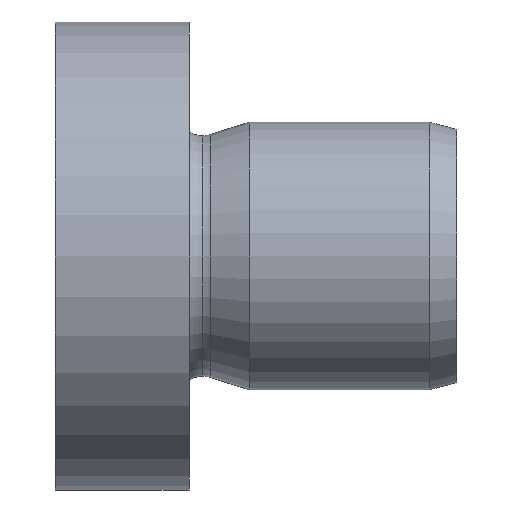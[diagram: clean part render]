
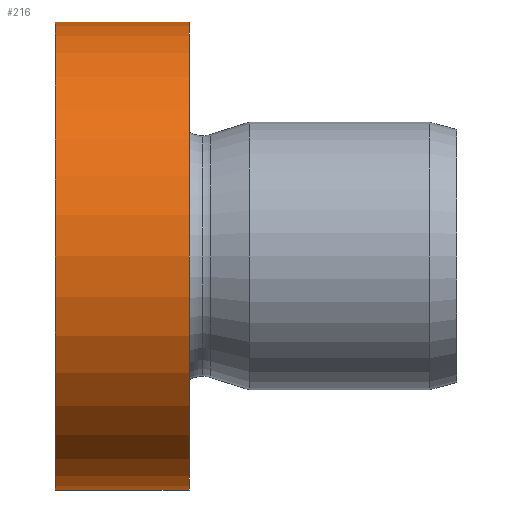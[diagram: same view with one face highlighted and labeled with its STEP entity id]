
A CAD part, left-side view. The second image highlights one B-rep face of the part: STEP entity #216.
In plain terms, the highlighted cylindrical face has radius 3.5 mm (diameter 7 mm), a partial arc.
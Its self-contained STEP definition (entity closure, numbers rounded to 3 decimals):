
#8 = VERTEX_POINT ( 'NONE', #115 ) ;
#13 = CIRCLE ( 'NONE', #390, 3.5 ) ;
#51 = DIRECTION ( 'NONE',  ( 0., -1., 0. ) ) ;
#92 = CARTESIAN_POINT ( 'NONE',  ( 0., 0., -3.5 ) ) ;
#97 = DIRECTION ( 'NONE',  ( 0., -1., 0. ) ) ;
#115 = CARTESIAN_POINT ( 'NONE',  ( 0., 4., -3.5 ) ) ;
#125 = CYLINDRICAL_SURFACE ( 'NONE', #629, 3.5 ) ;
#156 = VERTEX_POINT ( 'NONE', #439 ) ;
#178 = ORIENTED_EDGE ( 'NONE', *, *, #572, .T. ) ;
#204 = ORIENTED_EDGE ( 'NONE', *, *, #565, .F. ) ;
#216 = ADVANCED_FACE ( 'NONE', ( #240 ), #125, .T. ) ;
#225 = ORIENTED_EDGE ( 'NONE', *, *, #316, .T. ) ;
#240 = FACE_OUTER_BOUND ( 'NONE', #314, .T. ) ;
#260 = LINE ( 'NONE', #420, #327 ) ;
#284 = ORIENTED_EDGE ( 'NONE', *, *, #340, .F. ) ;
#285 = VERTEX_POINT ( 'NONE', #343 ) ;
#313 = CARTESIAN_POINT ( 'NONE',  ( 0., 6., 0. ) ) ;
#314 = EDGE_LOOP ( 'NONE', ( #284, #225, #178, #204 ) ) ;
#316 = EDGE_CURVE ( 'NONE', #156, #556, #13, .T. ) ;
#327 = VECTOR ( 'NONE', #97, 1000. ) ;
#336 = CARTESIAN_POINT ( 'NONE',  ( 0., 0., 0. ) ) ;
#340 = EDGE_CURVE ( 'NONE', #156, #285, #260, .T. ) ;
#341 = DIRECTION ( 'NONE',  ( 0., 0., -1. ) ) ;
#343 = CARTESIAN_POINT ( 'NONE',  ( 0., 4., 3.5 ) ) ;
#350 = DIRECTION ( 'NONE',  ( 0., 0., -1. ) ) ;
#389 = DIRECTION ( 'NONE',  ( 0., -1., 0. ) ) ;
#390 = AXIS2_PLACEMENT_3D ( 'NONE', #313, #51, #616 ) ;
#397 = CARTESIAN_POINT ( 'NONE',  ( 0., 6., -3.5 ) ) ;
#420 = CARTESIAN_POINT ( 'NONE',  ( 0., 0., 3.5 ) ) ;
#439 = CARTESIAN_POINT ( 'NONE',  ( 0., 6., 3.5 ) ) ;
#445 = CARTESIAN_POINT ( 'NONE',  ( 0., 4., 0. ) ) ;
#452 = AXIS2_PLACEMENT_3D ( 'NONE', #445, #489, #350 ) ;
#485 = DIRECTION ( 'NONE',  ( 0., -1., 0. ) ) ;
#489 = DIRECTION ( 'NONE',  ( 0., -1., 0. ) ) ;
#555 = CIRCLE ( 'NONE', #452, 3.5 ) ;
#556 = VERTEX_POINT ( 'NONE', #397 ) ;
#565 = EDGE_CURVE ( 'NONE', #285, #8, #555, .T. ) ;
#572 = EDGE_CURVE ( 'NONE', #556, #8, #590, .T. ) ;
#590 = LINE ( 'NONE', #92, #591 ) ;
#591 = VECTOR ( 'NONE', #485, 1000. ) ;
#616 = DIRECTION ( 'NONE',  ( 0., 0., -1. ) ) ;
#629 = AXIS2_PLACEMENT_3D ( 'NONE', #336, #389, #341 ) ;
